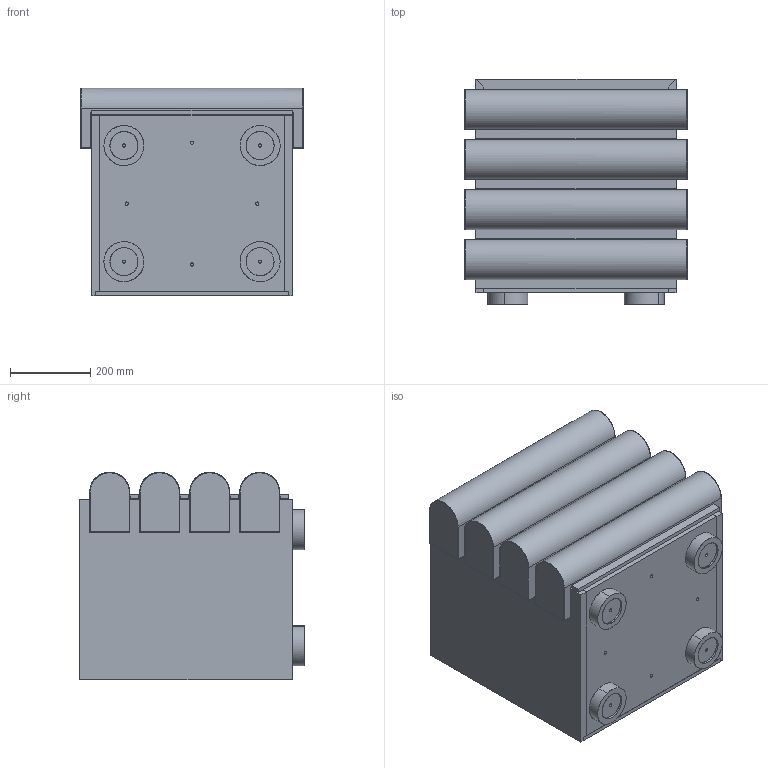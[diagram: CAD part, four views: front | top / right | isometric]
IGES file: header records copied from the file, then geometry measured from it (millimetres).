
Start section: SolidWorks IGES file using analytic representation for surfaces
Global section: file name: /Users/franzolinalessandro/Desktop/MENHIR_GONG_STORET/STORET/3D/004256.igs; preprocessor: Trout Lake IGES 012 Dec  4 2019; date: 201218.110241; units: millimetre
Bounding box: 556 x 561.5 x 517.92 mm (x, y, z)
Surface area: 6605462.2 mm2 (no closed solid volume)
Topology: 0 solids, 0 shells, 855 faces, 9956 edges, 9924 vertices
Faces by surface type: bspline 855
